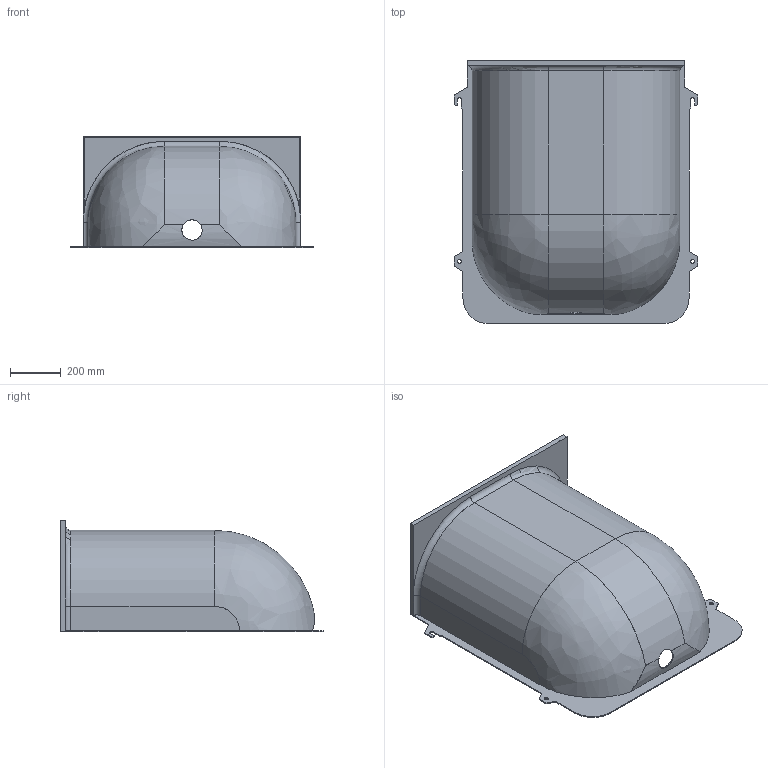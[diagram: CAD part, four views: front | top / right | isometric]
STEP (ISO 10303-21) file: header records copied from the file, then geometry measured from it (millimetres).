
FILE_DESCRIPTION(/* description */ (''),/* implementation_level */ '2;1');
FILE_NAME(/* name */ 'Q:\sge-bs-neu-2008\Marketing\CAD Zeichnungen\3D-CAD-Daten\3D Daten Website\- MEA Multinorm Kunststofflichtschacht\Step\Multinorm_80x100x40.stp',/* time_stamp */ '2019-02-14T11:02:00+01:00',/* author */ ('avgrahammj'),/* organization */ (''),/* preprocessor_version */ 'ST-DEVELOPER v16.1',/* originating_system */ 'Autodesk Inventor 2016',/* authorisation */ '');
FILE_SCHEMA (('AUTOMOTIVE_DESIGN { 1 0 10303 214 3 1 1 }'));
Length unit declared in the file: millimetre
Products named in the file (1): Multinorm_80x100x40
Bounding box: 962 x 1037 x 440 mm (x, y, z)
Volume: 6471092.3 mm3; surface area: 3257436.4 mm2
Topology: 1 solids, 1 shells, 73 faces, 205 edges, 132 vertices
Faces by surface type: plane 40, cylinder 23, bspline 6, torus 4
Full cylindrical faces by diameter (mm): 16 x2, 80 x1
Entity records: 2628 total; most frequent: CARTESIAN_POINT 724, ORIENTED_EDGE 404, DIRECTION 378, EDGE_CURVE 202, LINE 134, VECTOR 134, VERTEX_POINT 132, AXIS2_PLACEMENT_3D 122
